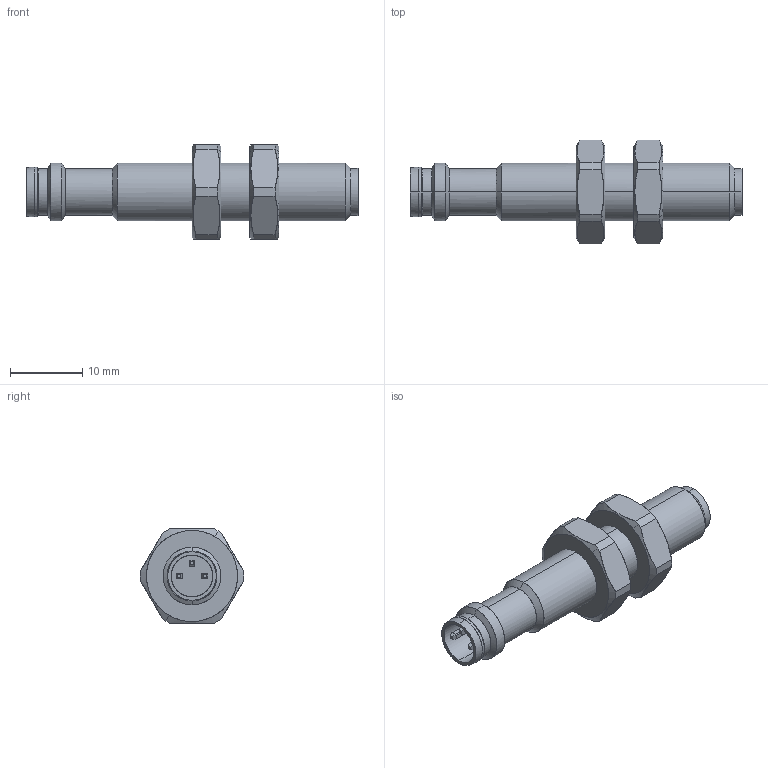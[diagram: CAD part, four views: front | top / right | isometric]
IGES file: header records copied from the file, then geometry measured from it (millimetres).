
Start section: Comment
Global section: file name: IFRD 08xxxT1_S35.igs; native system:  By Spatial Corp.; preprocessor: XPlus GENERIC/IGES 3.0; author: Author; organization: Title; date: 20060323.085243; units: inch
Bounding box: 45.9 x 14.36 x 13 mm (x, y, z)
Surface area: 2230.8 mm2 (no closed solid volume)
Topology: 0 solids, 0 shells, 132 faces, 660 edges, 660 vertices
Faces by surface type: bspline 132
